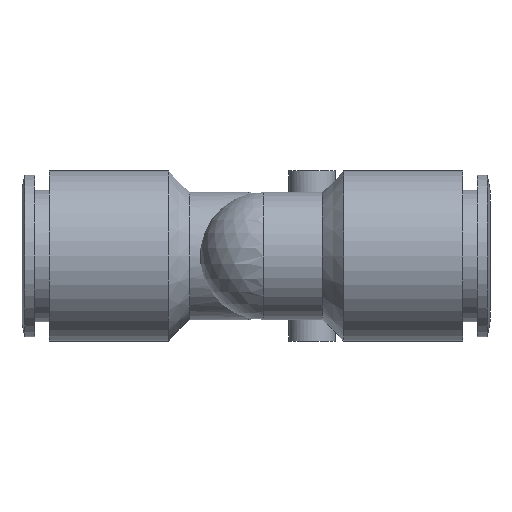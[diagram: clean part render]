
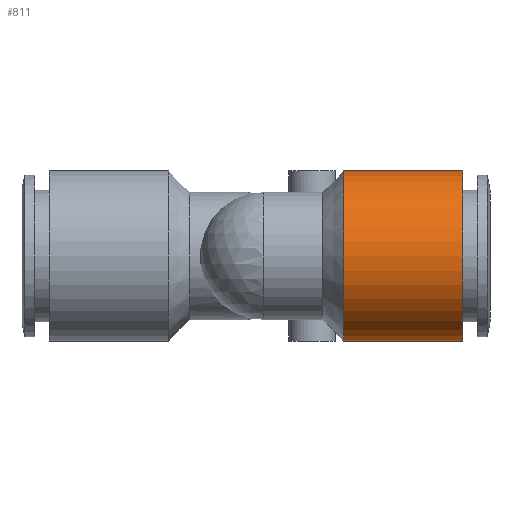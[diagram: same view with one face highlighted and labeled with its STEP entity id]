
A CAD part, left-side view. The second image highlights one B-rep face of the part: STEP entity #811.
In plain terms, the highlighted cylindrical face has radius 10 mm (diameter 20 mm), a full revolution.
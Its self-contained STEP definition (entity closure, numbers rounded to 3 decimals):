
#764=CARTESIAN_POINT('',(0.0,-3.7,0.0));
#765=VERTEX_POINT('',#764);
#766=CARTESIAN_POINT('',(-10.0,-3.7,0.0));
#767=DIRECTION('',(0.0,-1.0,0.0));
#768=DIRECTION('',(1.0,0.0,0.0));
#769=AXIS2_PLACEMENT_3D('',#766,#767,#768);
#770=CIRCLE('',#769,10.0);
#771=EDGE_CURVE('',#765,#765,#770,.T.);
#782=CARTESIAN_POINT('',(-10.,-10.7,0.0));
#783=DIRECTION('',(0.,-1.0,0.0));
#784=DIRECTION('',(1.0,0.0,0.0));
#785=AXIS2_PLACEMENT_3D('',#782,#783,#784);
#786=CYLINDRICAL_SURFACE('',#785,10.);
#787=ORIENTED_EDGE('',*,*,#771,.T.);
#788=CARTESIAN_POINT('',(0.0,-17.7,0.0));
#789=VERTEX_POINT('',#788);
#790=CARTESIAN_POINT('',(0.0,-3.7,0.0));
#791=DIRECTION('',(0.0,-1.0,0.0));
#792=VECTOR('',#791,14.0);
#793=LINE('',#790,#792);
#794=EDGE_CURVE('',#765,#789,#793,.T.);
#795=ORIENTED_EDGE('',*,*,#794,.T.);
#796=CARTESIAN_POINT('',(-10.,-17.7,0.0));
#797=DIRECTION('',(0.0,-1.0,0.0));
#798=DIRECTION('',(1.0,0.0,0.0));
#799=AXIS2_PLACEMENT_3D('',#796,#797,#798);
#800=CIRCLE('',#799,10.);
#801=EDGE_CURVE('',#789,#789,#800,.T.);
#802=ORIENTED_EDGE('',*,*,#801,.F.);
#803=CARTESIAN_POINT('',(0.0,-3.7,0.0));
#804=DIRECTION('',(0.0,-1.0,0.0));
#805=VECTOR('',#804,14.0);
#806=LINE('',#803,#805);
#807=EDGE_CURVE('',#765,#789,#806,.T.);
#808=ORIENTED_EDGE('',*,*,#807,.F.);
#809=EDGE_LOOP('',(#787,#795,#802,#808));
#810=FACE_OUTER_BOUND('',#809,.T.);
#811=ADVANCED_FACE('',(#810),#786,.T.);
